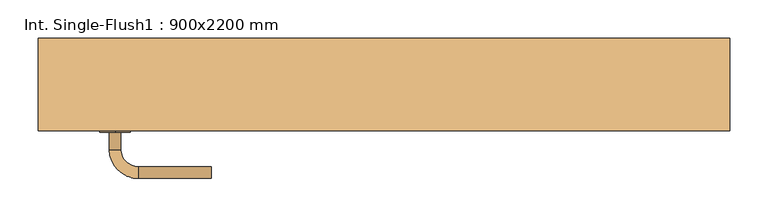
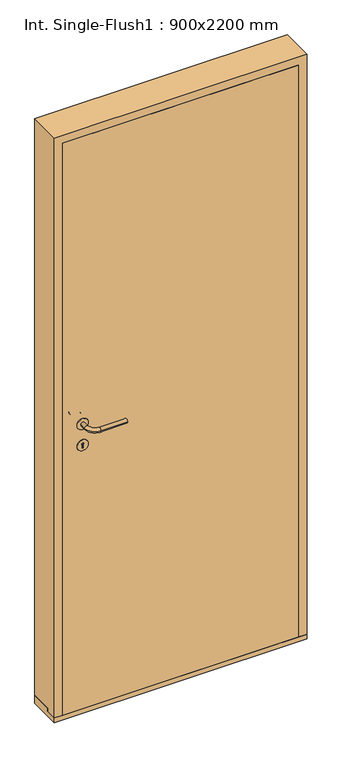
"""IFC4 building model written with IfcOpenShell, lengths in millimetres: door geometry, Int. Single-Flush1 : 900x2200 mm."""

from ifc_helpers import new_model, si_unit, point, frame, frame_2d, origin, place, context, project, spatial, polyline, circle_curve, ellipse_curve, trimmed, segment, composite_curve, outline, extrude, faceted_brep, source, transform, mapped, element, save
from ifc_brep_helpers import plane_surface, cylinder_surface, revolved_surface, advanced_brep


def int_single_flush1_900x2200_mm_924e3177(model_context):
    return source(origin(), model_context, "Body", "SolidModel", [
        extrude(outline(composite_curve([segment(trimmed(circle_curve(frame_2d((1090.0, -350.0)), 20.0), [point((1070.0, -350.0))], [point((1110.0, -350.0))], False, "CARTESIAN"), True, "CONTINUOUS"), segment(trimmed(circle_curve(frame_2d((1090.0, -350.0)), 20.0), [point((1110.0, -350.0))], [point((1070.0, -350.0))], False, "CARTESIAN"), True, "CONTINUOUS")], self_intersect=False)), frame((0.0, -62.0, 0.0), z_axis=(0.0, 1.0, 0.0), x_axis=(0.0, 0.0, 1.0)), (0.0, 0.0, 1.0), 2.0),
        advanced_brep(
        [(-357.5, -62.0, 1090.0), (-342.5, -62.0, 1090.0), (-342.5, -84.5, 1090.0), (-357.5, -84.5, 1090.0), (-320.0, -107.0, 1090.0), (-320.0, -122.0, 1090.0), (-225.0, -107.0, 1090.0), (-225.0, -122.0, 1090.0)],
        [
            (0, 1, circle_curve(frame((-350.0, -62.0, 1090.0), z_axis=(0.0, 1.0, 0.0), x_axis=(1.0, 0.0, 0.0)), 7.5)),
            (1, 0, circle_curve(frame((-350.0, -62.0, 1090.0), z_axis=(0.0, 1.0, 0.0), x_axis=(1.0, 0.0, 0.0)), 7.5)),
            (1, 2),
            (2, 3, circle_curve(frame((-350.0, -84.5, 1090.0), z_axis=(0.0, 1.0, 0.0), x_axis=(1.0, 0.0, 0.0)), 7.5)),
            (3, 0),
            (3, 2, circle_curve(frame((-350.0, -84.5, 1090.0), z_axis=(0.0, 1.0, 0.0), x_axis=(1.0, 0.0, 0.0)), 7.5)),
            (4, 5, circle_curve(frame((-320.0, -114.5, 1090.0), z_axis=(-1.0, 0.0, 0.0), x_axis=(0.0, 1.0, 0.0)), 7.5)),
            (5, 3, circle_curve(frame((-320.0, -84.5, 1090.0), z_axis=(0.0, 0.0, -1.0), x_axis=(-1.0, 0.0, 0.0)), 37.5)),
            (2, 4, circle_curve(frame((-320.0, -84.5, 1090.0), z_axis=(0.0, 0.0, 1.0), x_axis=(-1.0, 0.0, 0.0)), 22.5)),
            (5, 4, circle_curve(frame((-320.0, -114.5, 1090.0), z_axis=(-1.0, 0.0, 0.0), x_axis=(0.0, 1.0, 0.0)), 7.5)),
            (4, 6),
            (6, 7, circle_curve(frame((-225.0, -114.5, 1090.0), z_axis=(-1.0, 0.0, 0.0), x_axis=(0.0, 1.0, 0.0)), 7.5)),
            (7, 5),
            (7, 6, circle_curve(frame((-225.0, -114.5, 1090.0), z_axis=(-1.0, 0.0, 0.0), x_axis=(0.0, 1.0, 0.0)), 7.5)),
        ],
        [
            plane_surface(frame((-350.0, -62.0, 1090.0), z_axis=(0.0, 1.0, 0.0), x_axis=(0.0, 0.0, -1.0))),
            cylinder_surface(frame((-350.0, -62.0, 1090.0), z_axis=(0.0, 1.0, 0.0), x_axis=(1.0, 0.0, 0.0)), 7.5),
            revolved_surface(trimmed(ellipse_curve(frame((-350.0, -84.5, 1090.0), z_axis=(0.0, -1.0, 0.0), x_axis=(1.0, 0.0, 0.0)), 7.5, 7.5), [point((-357.5, -84.5, 1090.0))], [point((-342.5, -84.5, 1090.0))], True, "CARTESIAN"), (-320.0, -84.5, 1090.0), (0.0, 0.0, -1.0)),
            revolved_surface(trimmed(ellipse_curve(frame((-350.0, -84.5, 1090.0), z_axis=(0.0, -1.0, 0.0), x_axis=(1.0, 0.0, 0.0)), 7.5, 7.5), [point((-342.5, -84.5, 1090.0))], [point((-357.5, -84.5, 1090.0))], True, "CARTESIAN"), (-320.0, -84.5, 1090.0), (0.0, 0.0, -1.0)),
            cylinder_surface(frame((-320.0, -114.5, 1090.0), z_axis=(-1.0, 0.0, 0.0), x_axis=(0.0, 1.0, 0.0)), 7.5),
            plane_surface(frame((-225.0, -114.5, 1090.0), z_axis=(1.0, 0.0, 0.0), x_axis=(0.0, 0.0, -1.0))),
        ],
        [
            (0, [[1, 2]]),
            (1, [[3, 4, 5, -2]]),
            (1, [[-5, 6, -3, -1]]),
            (2, [[7, 8, -4, 9]]),
            (3, [[10, -9, -6, -8]]),
            (4, [[11, 12, 13, -7]]),
            (4, [[-13, 14, -11, -10]]),
            (5, [[-12, -14]]),
        ],
    ),
        extrude(outline(composite_curve([segment(trimmed(circle_curve(frame_2d((1010.0, -350.0)), 20.0), [point((990.0, -350.0))], [point((1030.0, -350.0))], False, "CARTESIAN"), True, "CONTINUOUS"), segment(trimmed(circle_curve(frame_2d((1010.0, -350.0)), 20.0), [point((1030.0, -350.0))], [point((990.0, -350.0))], False, "CARTESIAN"), True, "CONTINUOUS")], self_intersect=False), holes=[composite_curve([segment(trimmed(circle_curve(frame_2d((1015.0, -350.0)), 3.0), [point((1012.4019238, -351.5))], [point((1012.4019238, -348.5))], True, "CARTESIAN"), True, "CONTINUOUS"), segment(polyline([(1012.4019238, -348.5), (1000.0, -348.5), (1000.0, -351.5), (1012.4019238, -351.5)]), True, "CONTINUOUS")], self_intersect=False)]), frame((0.0, -62.0, 0.0), z_axis=(0.0, 1.0, 0.0), x_axis=(0.0, 0.0, 1.0)), (0.0, 0.0, 1.0), 2.0),
        extrude(outline(composite_curve([segment(trimmed(circle_curve(frame_2d((1090.0, -350.0)), 20.0), [point((1070.0, -350.0))], [point((1110.0, -350.0))], False, "CARTESIAN"), True, "CONTINUOUS"), segment(trimmed(circle_curve(frame_2d((1090.0, -350.0)), 20.0), [point((1110.0, -350.0))], [point((1070.0, -350.0))], False, "CARTESIAN"), True, "CONTINUOUS")], self_intersect=False)), frame((0.0, -20.0, 0.0), z_axis=(0.0, 1.0, 0.0), x_axis=(0.0, 0.0, 1.0)), (0.0, 0.0, 1.0), 2.0),
        advanced_brep(
        [(-357.5, -18.0, 1090.0), (-342.5, -18.0, 1090.0), (-357.5, 4.5, 1090.0), (-342.5, 4.5, 1090.0), (-320.0, 27.0, 1090.0), (-320.0, 42.0, 1090.0), (-225.0, 42.0, 1090.0), (-225.0, 27.0, 1090.0)],
        [
            (0, 1, circle_curve(frame((-350.0, -18.0, 1090.0), z_axis=(0.0, -1.0, 0.0), x_axis=(1.0, 0.0, 0.0)), 7.5)),
            (1, 0, circle_curve(frame((-350.0, -18.0, 1090.0), z_axis=(0.0, -1.0, 0.0), x_axis=(1.0, 0.0, 0.0)), 7.5)),
            (0, 2),
            (2, 3, circle_curve(frame((-350.0, 4.5, 1090.0), z_axis=(0.0, -1.0, 0.0), x_axis=(1.0, 0.0, 0.0)), 7.5)),
            (3, 1),
            (3, 2, circle_curve(frame((-350.0, 4.5, 1090.0), z_axis=(0.0, -1.0, 0.0), x_axis=(1.0, 0.0, 0.0)), 7.5)),
            (4, 3, circle_curve(frame((-320.0, 4.5, 1090.0), z_axis=(0.0, 0.0, 1.0), x_axis=(-1.0, 0.0, 0.0)), 22.5)),
            (2, 5, circle_curve(frame((-320.0, 4.5, 1090.0), z_axis=(0.0, 0.0, -1.0), x_axis=(-1.0, 0.0, 0.0)), 37.5)),
            (5, 4, circle_curve(frame((-320.0, 34.5, 1090.0), z_axis=(-1.0, 0.0, 0.0), x_axis=(0.0, -1.0, 0.0)), 7.5)),
            (4, 5, circle_curve(frame((-320.0, 34.5, 1090.0), z_axis=(-1.0, 0.0, 0.0), x_axis=(0.0, -1.0, 0.0)), 7.5)),
            (5, 6),
            (6, 7, circle_curve(frame((-225.0, 34.5, 1090.0), z_axis=(-1.0, 0.0, 0.0), x_axis=(0.0, -1.0, 0.0)), 7.5)),
            (7, 4),
            (7, 6, circle_curve(frame((-225.0, 34.5, 1090.0), z_axis=(-1.0, 0.0, 0.0), x_axis=(0.0, -1.0, 0.0)), 7.5)),
        ],
        [
            plane_surface(frame((-350.0, -18.0, 1090.0), z_axis=(0.0, -1.0, 0.0), x_axis=(0.0, 0.0, -1.0))),
            cylinder_surface(frame((-350.0, -18.0, 1090.0), z_axis=(0.0, -1.0, 0.0), x_axis=(1.0, 0.0, 0.0)), 7.5),
            revolved_surface(trimmed(ellipse_curve(frame((-350.0, 4.5, 1090.0), z_axis=(0.0, -1.0, 0.0), x_axis=(1.0, 0.0, 0.0)), 7.5, 7.5), [point((-357.5, 4.5, 1090.0))], [point((-342.5, 4.5, 1090.0))], True, "CARTESIAN"), (-320.0, 4.5, 1090.0), (0.0, 0.0, -1.0)),
            revolved_surface(trimmed(ellipse_curve(frame((-350.0, 4.5, 1090.0), z_axis=(0.0, -1.0, 0.0), x_axis=(1.0, 0.0, 0.0)), 7.5, 7.5), [point((-342.5, 4.5, 1090.0))], [point((-357.5, 4.5, 1090.0))], True, "CARTESIAN"), (-320.0, 4.5, 1090.0), (0.0, 0.0, -1.0)),
            cylinder_surface(frame((-320.0, 34.5, 1090.0), z_axis=(-1.0, 0.0, 0.0), x_axis=(0.0, -1.0, 0.0)), 7.5),
            plane_surface(frame((-225.0, 34.5, 1090.0), z_axis=(1.0, 0.0, 0.0), x_axis=(0.0, 0.0, -1.0))),
        ],
        [
            (0, [[1, 2]]),
            (1, [[-1, 3, 4, 5]]),
            (1, [[-2, -5, 6, -3]]),
            (2, [[7, -4, 8, 9]]),
            (3, [[-8, -6, -7, 10]]),
            (4, [[-9, 11, 12, 13]]),
            (4, [[-10, -13, 14, -11]]),
            (5, [[-14, -12]]),
        ],
    ),
        extrude(outline(composite_curve([segment(trimmed(circle_curve(frame_2d((1010.0, -350.0)), 20.0), [point((990.0, -350.0))], [point((1030.0, -350.0))], False, "CARTESIAN"), True, "CONTINUOUS"), segment(trimmed(circle_curve(frame_2d((1010.0, -350.0)), 20.0), [point((1030.0, -350.0))], [point((990.0, -350.0))], False, "CARTESIAN"), True, "CONTINUOUS")], self_intersect=False), holes=[composite_curve([segment(trimmed(circle_curve(frame_2d((1015.0, -350.0)), 3.0), [point((1012.4019238, -351.5))], [point((1012.4019238, -348.5))], True, "CARTESIAN"), True, "CONTINUOUS"), segment(polyline([(1012.4019238, -348.5), (1000.0, -348.5), (1000.0, -351.5), (1012.4019238, -351.5)]), True, "CONTINUOUS")], self_intersect=False)]), frame((0.0, -20.0, 0.0), z_axis=(0.0, 1.0, 0.0), x_axis=(0.0, 0.0, 1.0)), (0.0, 0.0, 1.0), 2.0),
        extrude(outline(polyline([(420.0, -20.0), (420.0, -60.0), (-420.0, -60.0), (-420.0, -20.0), (420.0, -20.0)])), frame((0.0, 0.0, 18.0), z_axis=(0.0, 0.0, 1.0), x_axis=(1.0, 0.0, 0.0)), (0.0, 0.0, 1.0), 2152.0),
        faceted_brep([(-420.0, -20.0, 2170.0), (-420.0, -20.0, 30.0), (-408.0, -20.0, 30.0), (-408.0, -20.0, 2158.0), (408.0, -20.0, 2158.0), (408.0, -20.0, 30.0), (420.0, -20.0, 30.0), (420.0, -20.0, 2170.0), (-420.0, -60.0, 2170.0), (-420.0, -60.0, 18.0), (-420.0, -20.0, 18.0), (-450.0, -20.0, 18.0), (-450.0, -20.0, 30.0), (450.0, -20.0, 30.0), (450.0, -20.0, 18.0), (420.0, -20.0, 18.0), (-450.0, -60.0, 18.0), (450.0, -60.0, 18.0), (420.0, -60.0, 18.0), (-450.0, -60.0, 2200.0), (420.0, -60.0, 2170.0), (450.0, -60.0, 2200.0), (408.0, 60.0, 30.0), (450.0, 60.0, 30.0), (-450.0, 60.0, 30.0), (-408.0, 60.0, 30.0), (408.0, 60.0, 2158.0), (-408.0, 60.0, 2158.0), (-450.0, 60.0, 2200.0), (450.0, 60.0, 2200.0)], [[[0, 1, 2, 3, 4, 5, 6, 7]], [[8, 9, 10, 1, 0]], [[1, 10, 11, 12]], [[13, 14, 15, 6]], [[10, 9, 16, 11]], [[14, 17, 18, 15]], [[19, 16, 9, 8, 20, 18, 17, 21]], [[7, 6, 15, 18, 20]], [[6, 5, 22, 23, 13]], [[12, 24, 25, 2, 1]], [[26, 22, 5, 4]], [[3, 2, 25, 27]], [[27, 25, 24, 28, 29, 23, 22, 26]], [[21, 17, 14, 13, 23, 29]], [[28, 24, 12, 11, 16, 19]], [[0, 7, 20, 8]], [[3, 27, 26, 4]], [[28, 19, 21, 29]]]),
        extrude(outline(polyline([(-20.0, 30.0), (60.0, 30.0), (60.0, 0.0), (-60.0, 0.0), (-60.0, 18.0), (-20.0, 18.0), (-20.0, 30.0)])), frame((-450.0, 0.0, 0.0), z_axis=(1.0, 0.0, 0.0), x_axis=(0.0, 1.0, 0.0)), (0.0, 0.0, 1.0), 900.0),
    ])


if __name__ == "__main__":
    model = new_model("IFC4")
    model_context = context("Model", 3, world=origin())
    ifc_project = project(units=[si_unit("LENGTHUNIT", "METRE", prefix="MILLI")], contexts=[model_context])
    site = spatial("IfcSite", under=ifc_project)
    building = spatial("IfcBuilding", under=site)
    placement = place(None, origin())
    int_single_flush1_900x2200_mm_shape = int_single_flush1_900x2200_mm_924e3177(model_context)
    element("IfcDoor", 1, ObjectType="Int. Single-Flush1 : 900x2200 mm", at=placement, inside=building, context=model_context, shape_type="MappedRepresentation", body=[
        mapped(int_single_flush1_900x2200_mm_shape, transform((0.0, 0.0, 0.0), x_axis=(1.0, 0.0, 0.0), y_axis=(0.0, 1.0, 0.0), z_axis=(0.0, 0.0, 1.0))),
    ])
    save(model, "model.ifc")
